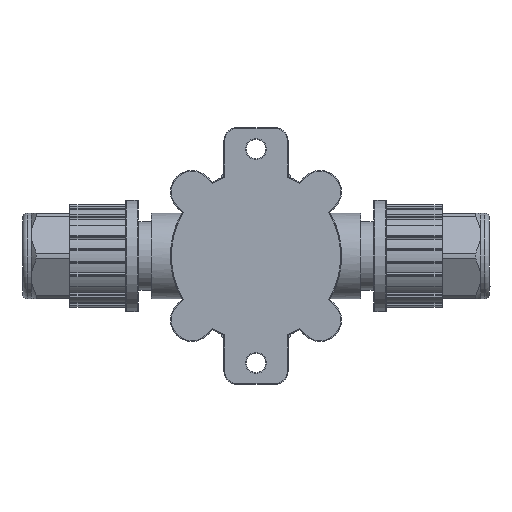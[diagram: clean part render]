
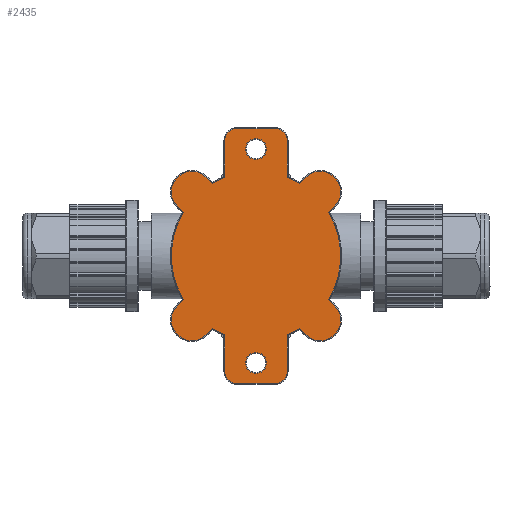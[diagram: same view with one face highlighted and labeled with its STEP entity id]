
A CAD part, front view. The second image highlights one B-rep face of the part: STEP entity #2435.
In plain terms, the highlighted planar face has unit normal (0, -1, 0).
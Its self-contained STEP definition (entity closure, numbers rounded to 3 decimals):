
#2435=ADVANCED_FACE('',(#4434,#4435,#4436),#3746,.F.);
#3746=PLANE('',#24040);
#4434=FACE_BOUND('',#4685,.T.);
#4435=FACE_BOUND('',#4686,.T.);
#4436=FACE_BOUND('',#4687,.T.);
#4685=EDGE_LOOP('',(#10646,#10647,#10648,#10649,#10650,#10651,#10652,#10653,
#10654,#10655,#10656,#10657,#10658,#10659,#10660,#10661,#10662,#10663,#10664,
#10665,#10666,#10667,#10668,#10669,#10670,#10671,#10672,#10673));
#4686=EDGE_LOOP('',(#10674));
#4687=EDGE_LOOP('',(#10675));
#6158=LINE('',#32336,#8392);
#6159=LINE('',#32340,#8393);
#6160=LINE('',#32344,#8394);
#6161=LINE('',#32348,#8395);
#6162=LINE('',#32352,#8396);
#6163=LINE('',#32356,#8397);
#6164=LINE('',#32360,#8398);
#6165=LINE('',#32364,#8399);
#6166=LINE('',#32368,#8400);
#6167=LINE('',#32372,#8401);
#6168=LINE('',#32376,#8402);
#6169=LINE('',#32380,#8403);
#6170=LINE('',#32384,#8404);
#6171=LINE('',#32388,#8405);
#8392=VECTOR('',#26071,1.);
#8393=VECTOR('',#26074,1.);
#8394=VECTOR('',#26077,1.);
#8395=VECTOR('',#26080,1.);
#8396=VECTOR('',#26083,1.);
#8397=VECTOR('',#26086,1.);
#8398=VECTOR('',#26089,1.);
#8399=VECTOR('',#26092,1.);
#8400=VECTOR('',#26095,1.);
#8401=VECTOR('',#26098,1.);
#8402=VECTOR('',#26101,1.);
#8403=VECTOR('',#26104,1.);
#8404=VECTOR('',#26107,1.);
#8405=VECTOR('',#26110,1.);
#10646=ORIENTED_EDGE('',*,*,#19763,.T.);
#10647=ORIENTED_EDGE('',*,*,#19764,.T.);
#10648=ORIENTED_EDGE('',*,*,#19765,.T.);
#10649=ORIENTED_EDGE('',*,*,#19766,.T.);
#10650=ORIENTED_EDGE('',*,*,#19767,.T.);
#10651=ORIENTED_EDGE('',*,*,#19768,.T.);
#10652=ORIENTED_EDGE('',*,*,#19769,.T.);
#10653=ORIENTED_EDGE('',*,*,#19770,.T.);
#10654=ORIENTED_EDGE('',*,*,#19771,.T.);
#10655=ORIENTED_EDGE('',*,*,#19772,.T.);
#10656=ORIENTED_EDGE('',*,*,#19773,.T.);
#10657=ORIENTED_EDGE('',*,*,#19774,.T.);
#10658=ORIENTED_EDGE('',*,*,#19775,.T.);
#10659=ORIENTED_EDGE('',*,*,#19776,.T.);
#10660=ORIENTED_EDGE('',*,*,#19777,.T.);
#10661=ORIENTED_EDGE('',*,*,#19778,.T.);
#10662=ORIENTED_EDGE('',*,*,#19779,.T.);
#10663=ORIENTED_EDGE('',*,*,#19780,.T.);
#10664=ORIENTED_EDGE('',*,*,#19781,.T.);
#10665=ORIENTED_EDGE('',*,*,#19782,.T.);
#10666=ORIENTED_EDGE('',*,*,#19783,.T.);
#10667=ORIENTED_EDGE('',*,*,#19784,.T.);
#10668=ORIENTED_EDGE('',*,*,#19785,.T.);
#10669=ORIENTED_EDGE('',*,*,#19786,.T.);
#10670=ORIENTED_EDGE('',*,*,#19787,.T.);
#10671=ORIENTED_EDGE('',*,*,#19788,.T.);
#10672=ORIENTED_EDGE('',*,*,#19789,.T.);
#10673=ORIENTED_EDGE('',*,*,#19790,.T.);
#10674=ORIENTED_EDGE('',*,*,#19791,.T.);
#10675=ORIENTED_EDGE('',*,*,#19792,.T.);
#17500=VERTEX_POINT('',#32334);
#17501=VERTEX_POINT('',#32335);
#17502=VERTEX_POINT('',#32337);
#17503=VERTEX_POINT('',#32339);
#17504=VERTEX_POINT('',#32341);
#17505=VERTEX_POINT('',#32343);
#17506=VERTEX_POINT('',#32345);
#17507=VERTEX_POINT('',#32347);
#17508=VERTEX_POINT('',#32349);
#17509=VERTEX_POINT('',#32351);
#17510=VERTEX_POINT('',#32353);
#17511=VERTEX_POINT('',#32355);
#17512=VERTEX_POINT('',#32357);
#17513=VERTEX_POINT('',#32359);
#17514=VERTEX_POINT('',#32361);
#17515=VERTEX_POINT('',#32363);
#17516=VERTEX_POINT('',#32365);
#17517=VERTEX_POINT('',#32367);
#17518=VERTEX_POINT('',#32369);
#17519=VERTEX_POINT('',#32371);
#17520=VERTEX_POINT('',#32373);
#17521=VERTEX_POINT('',#32375);
#17522=VERTEX_POINT('',#32377);
#17523=VERTEX_POINT('',#32379);
#17524=VERTEX_POINT('',#32381);
#17525=VERTEX_POINT('',#32383);
#17526=VERTEX_POINT('',#32385);
#17527=VERTEX_POINT('',#32387);
#17528=VERTEX_POINT('',#32390);
#17529=VERTEX_POINT('',#32392);
#19763=EDGE_CURVE('',#17500,#17501,#23176,.T.);
#19764=EDGE_CURVE('',#17501,#17502,#6158,.T.);
#19765=EDGE_CURVE('',#17502,#17503,#23177,.T.);
#19766=EDGE_CURVE('',#17503,#17504,#6159,.T.);
#19767=EDGE_CURVE('',#17504,#17505,#23178,.T.);
#19768=EDGE_CURVE('',#17505,#17506,#6160,.T.);
#19769=EDGE_CURVE('',#17506,#17507,#23179,.T.);
#19770=EDGE_CURVE('',#17507,#17508,#6161,.T.);
#19771=EDGE_CURVE('',#17508,#17509,#23180,.T.);
#19772=EDGE_CURVE('',#17509,#17510,#6162,.T.);
#19773=EDGE_CURVE('',#17510,#17511,#23181,.T.);
#19774=EDGE_CURVE('',#17511,#17512,#6163,.T.);
#19775=EDGE_CURVE('',#17512,#17513,#23182,.T.);
#19776=EDGE_CURVE('',#17513,#17514,#6164,.T.);
#19777=EDGE_CURVE('',#17514,#17515,#23183,.T.);
#19778=EDGE_CURVE('',#17515,#17516,#6165,.T.);
#19779=EDGE_CURVE('',#17516,#17517,#23184,.T.);
#19780=EDGE_CURVE('',#17517,#17518,#6166,.T.);
#19781=EDGE_CURVE('',#17518,#17519,#23185,.T.);
#19782=EDGE_CURVE('',#17519,#17520,#6167,.T.);
#19783=EDGE_CURVE('',#17520,#17521,#23186,.T.);
#19784=EDGE_CURVE('',#17521,#17522,#6168,.T.);
#19785=EDGE_CURVE('',#17522,#17523,#23187,.T.);
#19786=EDGE_CURVE('',#17523,#17524,#6169,.T.);
#19787=EDGE_CURVE('',#17524,#17525,#23188,.T.);
#19788=EDGE_CURVE('',#17525,#17526,#6170,.T.);
#19789=EDGE_CURVE('',#17526,#17527,#23189,.T.);
#19790=EDGE_CURVE('',#17527,#17500,#6171,.T.);
#19791=EDGE_CURVE('',#17528,#17528,#23190,.T.);
#19792=EDGE_CURVE('',#17529,#17529,#23191,.T.);
#23176=CIRCLE('',#24024,4.8);
#23177=CIRCLE('',#24025,19.8);
#23178=CIRCLE('',#24026,2.8);
#23179=CIRCLE('',#24027,2.8);
#23180=CIRCLE('',#24028,19.8);
#23181=CIRCLE('',#24029,4.8);
#23182=CIRCLE('',#24030,19.8);
#23183=CIRCLE('',#24031,4.8);
#23184=CIRCLE('',#24032,19.8);
#23185=CIRCLE('',#24033,2.8);
#23186=CIRCLE('',#24034,2.8);
#23187=CIRCLE('',#24035,19.8);
#23188=CIRCLE('',#24036,4.8);
#23189=CIRCLE('',#24037,19.8);
#23190=CIRCLE('',#24038,2.45);
#23191=CIRCLE('',#24039,2.45);
#24024=AXIS2_PLACEMENT_3D('',#32333,#26069,#26070);
#24025=AXIS2_PLACEMENT_3D('',#32338,#26072,#26073);
#24026=AXIS2_PLACEMENT_3D('',#32342,#26075,#26076);
#24027=AXIS2_PLACEMENT_3D('',#32346,#26078,#26079);
#24028=AXIS2_PLACEMENT_3D('',#32350,#26081,#26082);
#24029=AXIS2_PLACEMENT_3D('',#32354,#26084,#26085);
#24030=AXIS2_PLACEMENT_3D('',#32358,#26087,#26088);
#24031=AXIS2_PLACEMENT_3D('',#32362,#26090,#26091);
#24032=AXIS2_PLACEMENT_3D('',#32366,#26093,#26094);
#24033=AXIS2_PLACEMENT_3D('',#32370,#26096,#26097);
#24034=AXIS2_PLACEMENT_3D('',#32374,#26099,#26100);
#24035=AXIS2_PLACEMENT_3D('',#32378,#26102,#26103);
#24036=AXIS2_PLACEMENT_3D('',#32382,#26105,#26106);
#24037=AXIS2_PLACEMENT_3D('',#32386,#26108,#26109);
#24038=AXIS2_PLACEMENT_3D('',#32389,#26111,#26112);
#24039=AXIS2_PLACEMENT_3D('',#32391,#26113,#26114);
#24040=AXIS2_PLACEMENT_3D('',#32393,#26115,#26116);
#26069=DIRECTION('',(0.,-1.,0.));
#26070=DIRECTION('',(0.,0.,1.));
#26071=DIRECTION('',(-0.707,0.,-0.707));
#26072=DIRECTION('',(0.,-1.,0.));
#26073=DIRECTION('',(0.,0.,1.));
#26074=DIRECTION('',(0.,0.,1.));
#26075=DIRECTION('',(0.,-1.,0.));
#26076=DIRECTION('',(0.,0.,1.));
#26077=DIRECTION('',(-1.,0.,0.));
#26078=DIRECTION('',(0.,-1.,0.));
#26079=DIRECTION('',(0.,0.,1.));
#26080=DIRECTION('',(0.,0.,-1.));
#26081=DIRECTION('',(0.,-1.,0.));
#26082=DIRECTION('',(0.,0.,1.));
#26083=DIRECTION('',(-0.707,0.,0.707));
#26084=DIRECTION('',(0.,-1.,0.));
#26085=DIRECTION('',(0.,0.,1.));
#26086=DIRECTION('',(0.707,0.,-0.707));
#26087=DIRECTION('',(0.,-1.,0.));
#26088=DIRECTION('',(0.,0.,1.));
#26089=DIRECTION('',(-0.707,0.,-0.707));
#26090=DIRECTION('',(0.,-1.,0.));
#26091=DIRECTION('',(0.,0.,1.));
#26092=DIRECTION('',(0.707,0.,0.707));
#26093=DIRECTION('',(0.,-1.,0.));
#26094=DIRECTION('',(0.,0.,1.));
#26095=DIRECTION('',(0.,0.,-1.));
#26096=DIRECTION('',(0.,-1.,0.));
#26097=DIRECTION('',(0.,0.,1.));
#26098=DIRECTION('',(1.,0.,0.));
#26099=DIRECTION('',(0.,-1.,0.));
#26100=DIRECTION('',(0.,0.,1.));
#26101=DIRECTION('',(0.,0.,1.));
#26102=DIRECTION('',(0.,-1.,0.));
#26103=DIRECTION('',(0.,0.,1.));
#26104=DIRECTION('',(0.707,0.,-0.707));
#26105=DIRECTION('',(0.,-1.,0.));
#26106=DIRECTION('',(0.,0.,1.));
#26107=DIRECTION('',(-0.707,0.,0.707));
#26108=DIRECTION('',(0.,-1.,0.));
#26109=DIRECTION('',(0.,0.,1.));
#26110=DIRECTION('',(0.707,0.,0.707));
#26111=DIRECTION('',(0.,1.,0.));
#26112=DIRECTION('',(0.,0.,1.));
#26113=DIRECTION('',(0.,1.,0.));
#26114=DIRECTION('',(0.,0.,1.));
#26115=DIRECTION('',(0.,1.,0.));
#26116=DIRECTION('',(0.,0.,-1.));
#32333=CARTESIAN_POINT('',(15.,0.,15.));
#32334=CARTESIAN_POINT('',(18.394,0.,11.606));
#32335=CARTESIAN_POINT('',(11.606,0.,18.394));
#32336=CARTESIAN_POINT('',(10.189,0.,16.977));
#32337=CARTESIAN_POINT('',(10.189,0.,16.977));
#32338=CARTESIAN_POINT('',(0.,0.,0.));
#32339=CARTESIAN_POINT('',(7.3,0.,18.405));
#32340=CARTESIAN_POINT('',(7.3,0.,27.));
#32341=CARTESIAN_POINT('',(7.3,0.,27.));
#32342=CARTESIAN_POINT('',(4.5,0.,27.));
#32343=CARTESIAN_POINT('',(4.5,0.,29.8));
#32344=CARTESIAN_POINT('',(-4.5,0.,29.8));
#32345=CARTESIAN_POINT('',(-4.5,0.,29.8));
#32346=CARTESIAN_POINT('',(-4.5,0.,27.));
#32347=CARTESIAN_POINT('',(-7.3,0.,27.));
#32348=CARTESIAN_POINT('',(-7.3,0.,18.405));
#32349=CARTESIAN_POINT('',(-7.3,0.,18.405));
#32350=CARTESIAN_POINT('',(0.,0.,0.));
#32351=CARTESIAN_POINT('',(-10.189,0.,16.977));
#32352=CARTESIAN_POINT('',(-11.606,0.,18.394));
#32353=CARTESIAN_POINT('',(-11.606,0.,18.394));
#32354=CARTESIAN_POINT('',(-15.,0.,15.));
#32355=CARTESIAN_POINT('',(-18.394,0.,11.606));
#32356=CARTESIAN_POINT('',(-16.977,0.,10.189));
#32357=CARTESIAN_POINT('',(-16.977,0.,10.189));
#32358=CARTESIAN_POINT('',(0.,0.,0.));
#32359=CARTESIAN_POINT('',(-16.977,0.,-10.189));
#32360=CARTESIAN_POINT('',(-18.394,0.,-11.606));
#32361=CARTESIAN_POINT('',(-18.394,0.,-11.606));
#32362=CARTESIAN_POINT('',(-15.,0.,-15.));
#32363=CARTESIAN_POINT('',(-11.606,0.,-18.394));
#32364=CARTESIAN_POINT('',(-10.189,0.,-16.977));
#32365=CARTESIAN_POINT('',(-10.189,0.,-16.977));
#32366=CARTESIAN_POINT('',(0.,0.,0.));
#32367=CARTESIAN_POINT('',(-7.3,0.,-18.405));
#32368=CARTESIAN_POINT('',(-7.3,0.,-27.));
#32369=CARTESIAN_POINT('',(-7.3,0.,-27.));
#32370=CARTESIAN_POINT('',(-4.5,0.,-27.));
#32371=CARTESIAN_POINT('',(-4.5,0.,-29.8));
#32372=CARTESIAN_POINT('',(4.5,0.,-29.8));
#32373=CARTESIAN_POINT('',(4.5,0.,-29.8));
#32374=CARTESIAN_POINT('',(4.5,0.,-27.));
#32375=CARTESIAN_POINT('',(7.3,0.,-27.));
#32376=CARTESIAN_POINT('',(7.3,0.,-18.405));
#32377=CARTESIAN_POINT('',(7.3,0.,-18.405));
#32378=CARTESIAN_POINT('',(0.,0.,0.));
#32379=CARTESIAN_POINT('',(10.189,0.,-16.977));
#32380=CARTESIAN_POINT('',(11.606,0.,-18.394));
#32381=CARTESIAN_POINT('',(11.606,0.,-18.394));
#32382=CARTESIAN_POINT('',(15.,0.,-15.));
#32383=CARTESIAN_POINT('',(18.394,0.,-11.606));
#32384=CARTESIAN_POINT('',(16.977,0.,-10.189));
#32385=CARTESIAN_POINT('',(16.977,0.,-10.189));
#32386=CARTESIAN_POINT('',(0.,0.,0.));
#32387=CARTESIAN_POINT('',(16.977,0.,10.189));
#32388=CARTESIAN_POINT('',(18.394,0.,11.606));
#32389=CARTESIAN_POINT('',(0.,0.,25.));
#32390=CARTESIAN_POINT('',(0.,0.,27.45));
#32391=CARTESIAN_POINT('',(0.,0.,-25.));
#32392=CARTESIAN_POINT('',(0.,0.,-22.55));
#32393=CARTESIAN_POINT('',(0.,0.,0.));
